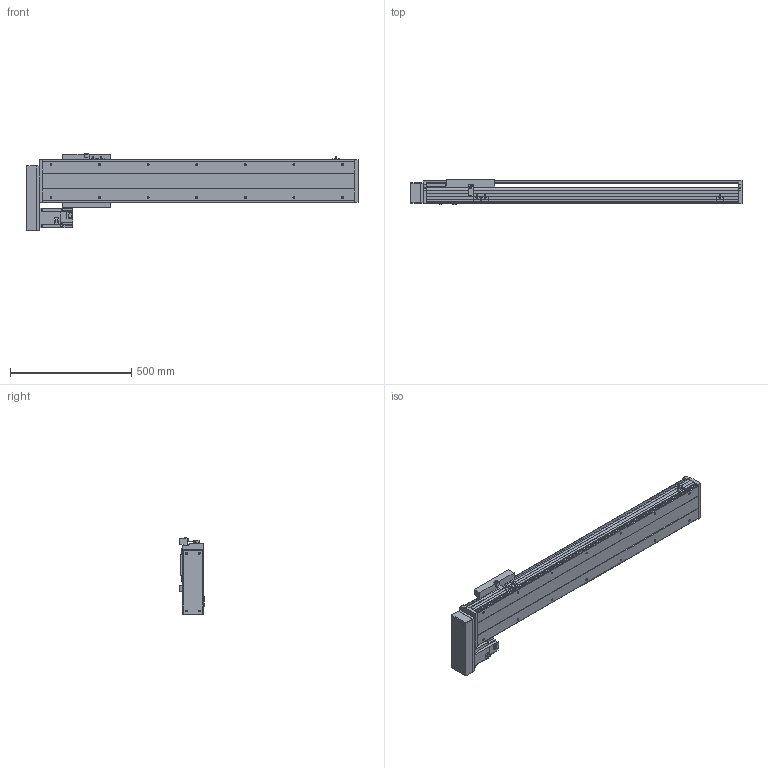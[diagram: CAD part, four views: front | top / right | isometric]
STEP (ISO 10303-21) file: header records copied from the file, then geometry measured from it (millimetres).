
FILE_DESCRIPTION( ( 'STEP AP214' ), '1' );
FILE_NAME( 'x:/temp/worker_6/temp/exporttempdir_5396_273_K7orS/format_0/PSS200-L10-S950-BR-T75-C1-N(0).stp', '2022-06-09T01:16:51', ( 'License CC BY-ND 4.0' ), ( 'CADENAS' ), ' ', 'PARTsolutions', ' ' );
FILE_SCHEMA( ( 'AUTOMOTIVE_DESIGN { 1 0 10303 214 1 1 1 1 }' ) );
Length unit declared in the file: millimetre
Products named in the file (8): PSS200-L10-S950-BR-T75-C1-N(0); _PSS200-S950-BR-C1-N_body; _PSS200-N_Q; _PSS200-BR-C1-N_sl; _PSS200-N_sensor; _PSS200BR-N_h; _T75-p1; _PSS200-S950-BR-N_S
Assembly tree (9 placements, depth 2):
  PSS200-L10-S950-BR-T75-C1-N(0)
    _PSS200-S950-BR-C1-N_body
    _PSS200-N_Q
    _PSS200-BR-C1-N_sl
    _PSS200-N_sensor  x3
    _PSS200BR-N_h
    _T75-p1
    _PSS200-S950-BR-N_S
Bounding box: 1366.85 x 105.3 x 317.86 mm (x, y, z)
Volume: 9197862.7 mm3; surface area: 2155124.2 mm2
Topology: 9 solids, 9 shells, 608 faces, 1621 edges, 1070 vertices
Faces by surface type: plane 466, cylinder 116, cone 22, sphere 4
Full cylindrical faces by diameter (mm): 4 x2, 4.5 x4, 6 x7, 6.647 x18, 7.4 x4, 8 x8, 10 x6, 25 x1, 40 x1, 67 x1
Entity records: 21210 total; most frequent: CARTESIAN_POINT 2891, DIRECTION 2792, ORIENTED_EDGE 2750, EDGE_CURVE 1375, LINE 1090, VECTOR 1090, VERTEX_POINT 950, AXIS2_PLACEMENT_3D 851
